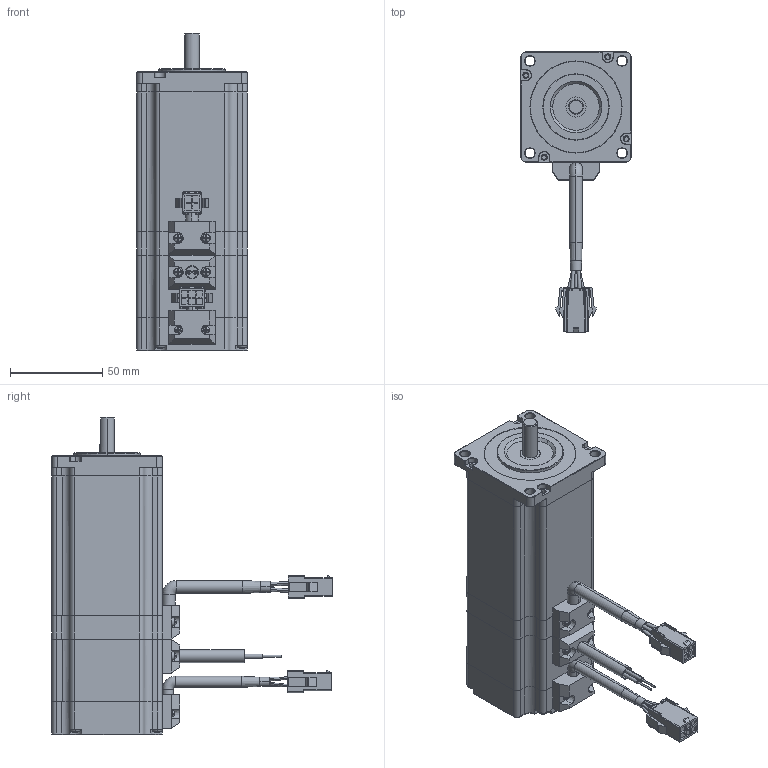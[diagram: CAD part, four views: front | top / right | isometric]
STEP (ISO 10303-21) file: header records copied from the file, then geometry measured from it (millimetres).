
FILE_DESCRIPTION (( 'STEP AP214' ), '1' );
FILE_NAME ('LS60E35-D2B42S02-BL.STEP', '2019-12-17T02:23:11', ( '' ), ( '' ), 'SwSTEP 2.0', 'SolidWorks 2018', '' );
FILE_SCHEMA (( 'AUTOMOTIVE_DESIGN' ));
Length unit declared in the file: millimetre
Products named in the file (1): LS60E35-D2B42S02-BL
Bounding box: 60 x 152.19 x 172.6 mm (x, y, z)
Volume: 253519.5 mm3; surface area: 98997 mm2
Topology: 1 solids, 3 shells, 5894 faces, 16744 edges, 11097 vertices
Faces by surface type: plane 5420, cylinder 352, cone 46, torus 36, sphere 20, bspline 20
Entity records: 191464 total; most frequent: CARTESIAN_POINT 34618, ORIENTED_EDGE 33488, DIRECTION 29452, EDGE_CURVE 16744, LINE 15562, VECTOR 15562, VERTEX_POINT 11097, AXIS2_PLACEMENT_3D 6945
